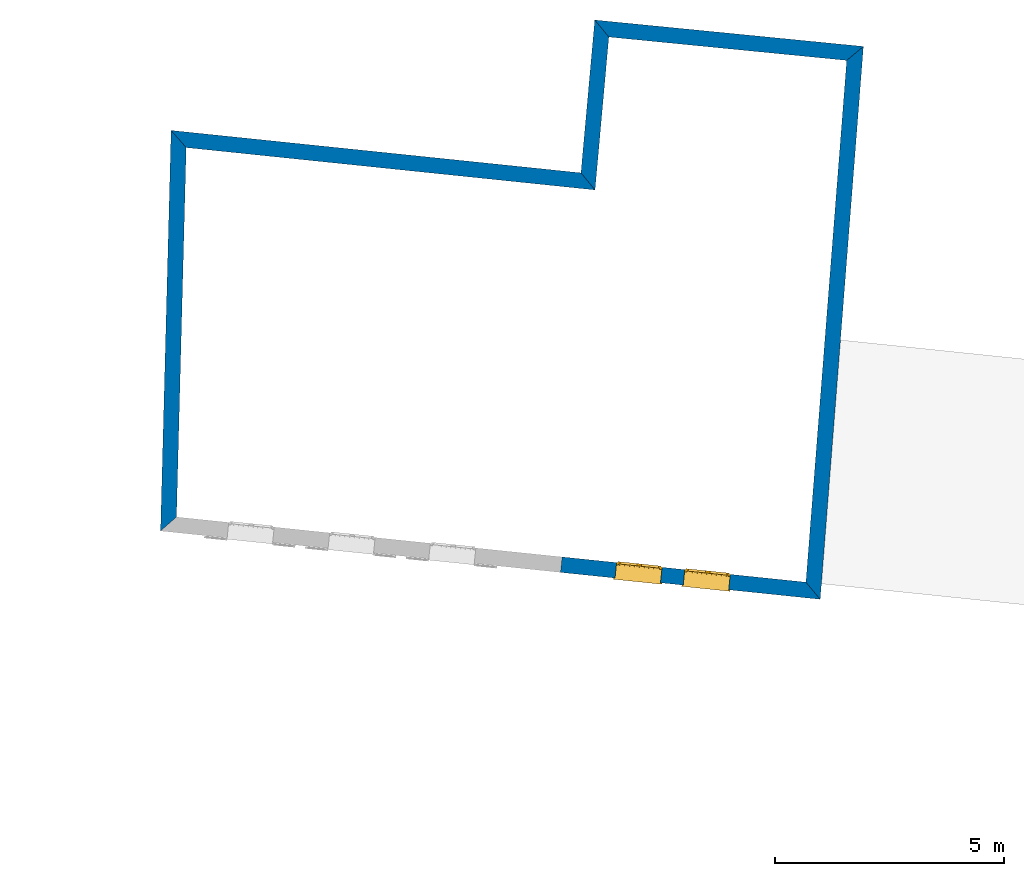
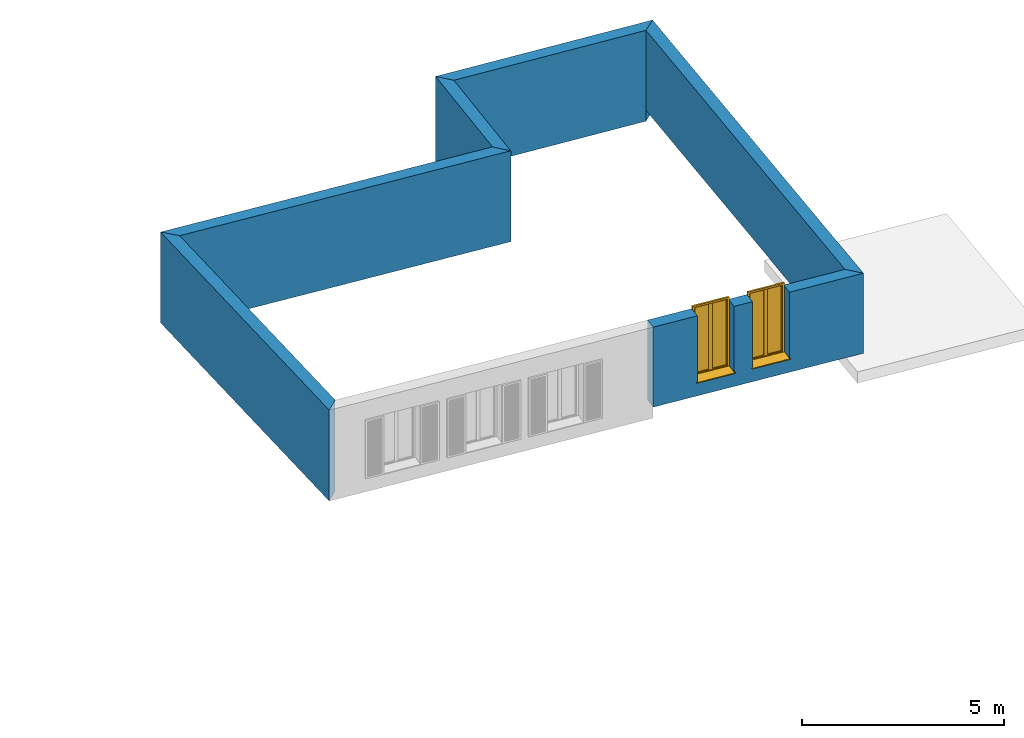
# One storey, part 72 of 164: 6 walls, 2 windows, 2 openings.
"""IFC2X3 building model written with IfcOpenShell, lengths in millimetres."""

from ifc_helpers import new_model, entity, si_unit, converted_unit, derived_unit, money_unit, direction, frame, origin_with_axes, origin_2d_with_axis, place, context, subcontext, project, spatial, polyline, rectangle, outline, extrude, open_shell, faceted_brep, surface_model, source, transform, mapped, material, layer, layer_set, layer_usage, type_object, element, fill, save


model = new_model("IFC2X3")

# Units and contexts
model_context = context("Model", 3, precision=0.01, world=origin_with_axes(), true_north=direction((0.0, 1.0)))
body_context = subcontext(model_context, "Body", "Model", "MODEL_VIEW")
ifc_project = project(units=[si_unit("LENGTHUNIT", "METRE", prefix="MILLI"), si_unit("AREAUNIT", "SQUARE_METRE"), si_unit("VOLUMEUNIT", "CUBIC_METRE"), converted_unit("PLANEANGLEUNIT", "DEGREE", entity("IfcPlaneAngleMeasure", 0.0174532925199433), si_unit("PLANEANGLEUNIT", "RADIAN"), dimensions=[0, 0, 0, 0, 0, 0, 0]), money_unit("USD"), converted_unit("TIMEUNIT", "Year", entity("IfcTimeMeasure", 31557600.0), si_unit("TIMEUNIT", "SECOND"), dimensions=[0, 0, 1, 0, 0, 0, 0]), si_unit("MASSUNIT", "GRAM", prefix="KILO"), si_unit("THERMODYNAMICTEMPERATUREUNIT", "DEGREE_CELSIUS"), si_unit("LUMINOUSINTENSITYUNIT", "LUMEN"), si_unit("ENERGYUNIT", "JOULE", prefix="MEGA"), derived_unit("THERMALCONDUCTANCEUNIT", [(si_unit("POWERUNIT", "WATT"), 1), (si_unit("LENGTHUNIT", "METRE"), -1), (si_unit("THERMODYNAMICTEMPERATUREUNIT", "KELVIN"), -1)]), derived_unit("SPECIFICHEATCAPACITYUNIT", [(si_unit("ENERGYUNIT", "JOULE"), 1), (si_unit("MASSUNIT", "GRAM", prefix="KILO"), -1), (si_unit("THERMODYNAMICTEMPERATUREUNIT", "KELVIN"), -1)]), derived_unit("MASSDENSITYUNIT", [(si_unit("MASSUNIT", "GRAM", prefix="KILO"), 1), (si_unit("VOLUMEUNIT", "CUBIC_METRE"), -1)])], contexts=[model_context])

# Site, building, storey
site_placement = place(None, origin_with_axes())
site = spatial("IfcSite", under=ifc_project, at=site_placement, Name="Site", CompositionType="ELEMENT")
building_placement = place(site_placement, origin_with_axes())
building = spatial("IfcBuilding", under=site, at=building_placement, Name="Bâtiment", CompositionType="ELEMENT")
storey_placement = place(building_placement, frame((0.0, 0.0, 5750.0), z_axis=(0.0, 0.0, 1.0), x_axis=(1.0, 0.0, 0.0)))
storey = spatial("IfcBuildingStorey", under=building, at=storey_placement, Name="Etage1", CompositionType="ELEMENT", Elevation=5750.0)

# Walls
ifc_material = material(Name="Empty Fill 272047960")
ifc_layer = layer(ifc_material, 339.9999999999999, ventilated="UNKNOWN")
ifc_layer_set = layer_set([ifc_layer], Name="Empty Fill 272047960 340")
ifc_layer_usage_1 = layer_usage(ifc_layer_set, "AXIS2", "NEGATIVE", 0.0)
wall_type = type_object("IfcWallType", Name="Empty Fill 272047960 340", PredefinedType="NOTDEFINED")
wall_1_placement = place(storey_placement, frame((2246632.083736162, -579669.7231608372, 250.0), z_axis=(0.0, 0.0, 1.0), x_axis=(0.9951929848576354, -0.09793325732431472, 0.0)))
element("IfcWallStandardCase", 1, at=wall_1_placement, inside=storey, type_object=wall_type, material=ifc_layer_usage_1, Name="Mur-147", context=body_context, shape_type="SweptSolid", body=[
    extrude(outline(polyline([(342.7611404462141, -339.9999999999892), (5572.043413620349, -340.0000000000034), (5905.294234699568, 0.0), (-1.13686837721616e-10, 0.0), (342.7611404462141, -339.9999999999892)])), origin_with_axes(), (0.0, 0.0, 1.0), 2750.0),
])
ifc_layer_usage_2 = layer_usage(ifc_layer_set, "AXIS2", "NEGATIVE", 0.0)
wall_2_placement = place(storey_placement, frame((2237364.476926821, -582084.9367161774, 250.0), z_axis=(0.0, 0.0, 1.0), x_axis=(0.994678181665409, -0.1030306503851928, 0.0)))
element("IfcWallStandardCase", 2, at=wall_2_placement, inside=storey, type_object=wall_type, material=ifc_layer_usage_2, Name="Mur-145", context=body_context, shape_type="SweptSolid", body=[
    extrude(outline(polyline([(367.2099871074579, -340.0000000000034), (9358.323235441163, -339.9999999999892), (9013.80140884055, 0.0), (1.13686837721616e-10, 0.0), (367.2099871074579, -340.0000000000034)])), origin_with_axes(), (0.0, 0.0, 1.0), 2750.0),
])
ifc_layer_usage_3 = layer_usage(ifc_layer_set, "AXIS2", "NEGATIVE", 0.0)
wall_3_placement = place(storey_placement, frame((2237133.958942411, -590847.3537416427, 250.0), z_axis=(0.0, 0.0, 1.0), x_axis=(0.02629848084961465, 0.999654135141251, 0.0)))
element("IfcWallStandardCase", 3, at=wall_3_placement, inside=storey, type_object=wall_type, material=ifc_layer_usage_3, Name="Mur-144", context=body_context, shape_type="SweptSolid", body=[
    extrude(outline(polyline([(314.8062527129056, -340.0000000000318), (8398.238699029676, -340.0000000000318), (8765.448686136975, 1.13686837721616e-10), (0.0, 0.0), (314.8062527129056, -340.0000000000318)])), origin_with_axes(), (0.0, 0.0, 1.0), 2750.0),
])

# Wall, openings, windows
ifc_layer_usage_4 = layer_usage(ifc_layer_set, "AXIS2", "NEGATIVE", 0.0)
wall_4_placement = place(storey_placement, frame((2251563.241222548, -592341.9661351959, 577.6246123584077), z_axis=(0.0, 0.0, 1.0), x_axis=(-0.994678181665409, 0.103030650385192, 0.0)))
wall_4 = element("IfcWallStandardCase", 4, at=wall_4_placement, inside=storey, type_object=wall_type, material=ifc_layer_usage_4, Name="Mur-143", context=body_context, shape_type="SweptSolid", body=[
    extrude(outline(polyline([(348.6680963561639, -339.9999999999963), (5710.689780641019, -339.9999999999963), (5710.689780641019, 0.0), (0.0, 0.0), (348.6680963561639, -339.9999999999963)])), origin_with_axes(), (0.0, 0.0, 1.0), 2422.375387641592),
])
opening_1_placement = place(wall_4_placement, frame((2512.311113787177, 0.0, 398.1636091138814), z_axis=(0.0, 0.0, 1.0), x_axis=(1.0, 0.0, 0.0)))
opening_1 = element("IfcOpeningElement", 5, at=opening_1_placement, cuts=wall_4, Name="Fen-209", context=body_context, shape_type="SweptSolid", body=[
    extrude(rectangle(XDim=1000.000000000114, YDim=2123.206590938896, at=origin_2d_with_axis()), frame((0.0, -289.9999999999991, 1061.603295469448), z_axis=(0.0, -1.0, 0.0), x_axis=(-1.0, 0.0, 0.0)), (0.0, 0.0, -1.0), 629.9999999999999),
    extrude(rectangle(XDim=1000.000000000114, YDim=2123.206590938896, at=origin_2d_with_axis()), frame((0.0, -289.999999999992, 1061.603295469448), z_axis=(0.0, 1.0, 0.0), x_axis=(-1.0, 0.0, 0.0)), (0.0, 0.0, -1.0), 389.9999999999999),
])
opening_2_placement = place(wall_4_placement, frame((4012.311113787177, 0.0, 398.1636091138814), z_axis=(0.0, 0.0, 1.0), x_axis=(1.0, 0.0, 0.0)))
opening_2 = element("IfcOpeningElement", 6, at=opening_2_placement, cuts=wall_4, Name="Fen-208", context=body_context, shape_type="SweptSolid", body=[
    extrude(rectangle(XDim=1000.000000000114, YDim=2123.206590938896, at=origin_2d_with_axis()), frame((1.13686837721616e-10, -289.999999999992, 1061.603295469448), z_axis=(0.0, -1.0, 0.0), x_axis=(-1.0, 0.0, 0.0)), (0.0, 0.0, -1.0), 629.9999999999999),
    extrude(rectangle(XDim=1000.000000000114, YDim=2123.206590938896, at=origin_2d_with_axis()), frame((0.0, -289.999999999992, 1061.603295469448), z_axis=(0.0, 1.0, 0.0), x_axis=(-1.0, 0.0, 0.0)), (0.0, 0.0, -1.0), 389.9999999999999),
])
window_style = type_object("IfcWindowStyle", Name="Fenêtre châssis double variable 27", ConstructionType="NOTDEFINED", OperationType="DOUBLE_PANEL_VERTICAL", ParameterTakesPrecedence=False, Sizeable=False)
shared_shape = source(origin_with_axes(), body_context, "Body", "SurfaceModel", [
    surface_model("IfcShellBasedSurfaceModel", [(500.0, -51.00000000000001, 40.00000000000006), (500.0, -51.00000000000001, 50.00000000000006), (-500.0, -51.00000000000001, 50.0), (-500.0, -51.00000000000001, 40.0), (530.0, -369.9999999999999, 28.96551724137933), (530.0, -339.9999999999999, 30.00324289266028), (500.0, -339.9999999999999, 30.00324289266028), (-500.0, -339.9999999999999, 30.00324289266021), (-530.0, -339.9999999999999, 30.00324289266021), (-530.0, -369.9999999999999, 28.96551724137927), (530.0, -369.9999999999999, 8.96551724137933), (-530.0, -369.9999999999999, 8.965517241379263), (530.0, -359.9999999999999, 18.96551724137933), (-530.0, -359.9999999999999, 18.96551724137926)], [open_shell([[[0, 1, 2, 3]], [[4, 5, 6, 0, 3, 7, 8, 9]], [[10, 4, 9, 11]], [[12, 10, 11, 13]]])]),
    faceted_brep([(-475.0000000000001, 0.0, 2073.206590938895), (-500.0, 0.0, 2073.206590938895), (-500.0, -50.00000000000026, 2073.206590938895), (-450.0, -50.00000000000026, 2073.206590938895), (-450.0, -25.00000000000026, 2073.206590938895), (-475.0000000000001, -25.00000000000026, 2073.206590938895), (-475.0000000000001, 0.0, 50.00000000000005), (-500.0, 0.0, 50.00000000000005), (-500.0, -50.00000000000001, 50.00000000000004), (-450.0, -50.00000000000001, 50.00000000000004), (-450.0, -25.00000000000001, 50.00000000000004), (-475.0000000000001, -25.00000000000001, 50.00000000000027)], [[[0, 1, 2, 3, 4, 5]], [[6, 7, 1, 0]], [[1, 7, 8, 2]], [[2, 8, 9, 3]], [[4, 3, 9, 10]], [[10, 11, 5, 4]], [[5, 11, 6, 0]], [[11, 10, 9, 8, 7, 6]]]),
    faceted_brep([(450.0, -25.00000000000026, 2073.206590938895), (450.0, -50.00000000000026, 2073.206590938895), (500.0, -50.00000000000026, 2073.206590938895), (500.0, 0.0, 2073.206590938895), (475.0000000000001, 0.0, 2073.206590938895), (475.0000000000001, -25.00000000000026, 2073.206590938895), (450.0, -25.00000000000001, 50.00000000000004), (450.0, -50.00000000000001, 50.00000000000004), (500.0, -50.00000000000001, 50.00000000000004), (500.0, 0.0, 50.00000000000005), (475.0000000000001, 0.0, 50.00000000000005), (475.0000000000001, -25.00000000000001, 50.00000000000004)], [[[0, 1, 2, 3, 4, 5]], [[6, 7, 1, 0]], [[8, 2, 1, 7]], [[9, 3, 2, 8]], [[4, 3, 9, 10]], [[10, 11, 5, 4]], [[5, 11, 6, 0]], [[11, 10, 9, 8, 7, 6]]]),
    faceted_brep([(450.0, -25.00000000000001, 50.00000000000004), (450.0, -50.00000000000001, 50.00000000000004), (500.0, -50.00000000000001, 50.00000000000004), (500.0, 0.0, 50.00000000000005), (475.0000000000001, 0.0, 50.00000000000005), (475.0000000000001, -25.00000000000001, 50.00000000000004), (-450.0, -25.00000000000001, 50.00000000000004), (-450.0, -50.00000000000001, 50.00000000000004), (-500.0, -50.00000000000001, 50.00000000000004), (-500.0, -50.0, 0.0), (500.0, -50.0, 0.0), (500.0, 0.0, 0.0), (-475.0000000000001, 0.0, 24.99999999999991), (475.0000000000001, 0.0, 24.99999999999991), (-500.0, 0.0, 0.0), (-500.0, 0.0, 50.00000000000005), (-475.0000000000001, 0.0, 50.00000000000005), (475.0000000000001, -25.0, 24.99999999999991), (-475.0000000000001, -25.0, 24.99999999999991), (-475.0000000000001, -25.00000000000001, 50.00000000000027)], [[[0, 1, 2, 3, 4, 5]], [[6, 7, 1, 0]], [[8, 9, 10, 2, 1, 7]], [[11, 3, 2, 10]], [[12, 13, 4, 3, 11, 14, 15, 16]], [[13, 17, 5, 4]], [[5, 17, 18, 19, 6, 0]], [[19, 16, 15, 8, 7, 6]], [[15, 14, 9, 8]], [[14, 11, 10, 9]], [[12, 18, 17, 13]], [[19, 18, 12, 16]]]),
    faceted_brep([(-475.0000000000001, 0.0, 2073.206590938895), (-500.0, 0.0, 2073.206590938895), (-500.0, 0.0, 2123.206590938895), (500.0, 0.0, 2123.206590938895), (500.0, 0.0, 2073.206590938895), (475.0000000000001, 0.0, 2073.206590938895), (475.0000000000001, 0.0, 2098.206590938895), (-475.0000000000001, 0.0, 2098.206590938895), (-475.0000000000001, -25.00000000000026, 2073.206590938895), (-450.0, -25.00000000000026, 2073.206590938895), (-450.0, -50.00000000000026, 2073.206590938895), (-500.0, -50.00000000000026, 2073.206590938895), (-500.0, -50.00000000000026, 2123.206590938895), (500.0, -50.00000000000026, 2123.206590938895), (500.0, -50.00000000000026, 2073.206590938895), (475.0000000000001, -25.00000000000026, 2073.206590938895), (450.0, -50.00000000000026, 2073.206590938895), (450.0, -25.00000000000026, 2073.206590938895), (475.0000000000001, -25.00000000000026, 2098.206590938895), (-475.0000000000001, -25.00000000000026, 2098.206590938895)], [[[0, 1, 2, 3, 4, 5, 6, 7]], [[8, 9, 10, 11, 1, 0]], [[2, 1, 11, 12]], [[3, 2, 12, 13]], [[4, 3, 13, 14]], [[15, 5, 4, 14, 16, 17]], [[5, 15, 18, 6]], [[6, 18, 19, 7]], [[7, 19, 8, 0]], [[17, 9, 8, 19, 18, 15]], [[17, 16, 10, 9]], [[14, 13, 12, 11, 10, 16]]]),
    faceted_brep([(-425.0000000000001, -25.00000000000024, 2048.206590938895), (-425.0000000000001, 24.99999999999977, 2048.206590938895), (-475.0000000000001, 24.99999999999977, 2048.206590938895), (-475.0000000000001, -25.00000000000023, 2048.206590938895), (-425.0000000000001, -24.99999999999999, 75.00000000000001), (-425.0000000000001, 25.00000000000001, 75.00000000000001), (-475.0000000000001, 25.00000000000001, 75.00000000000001), (-475.0000000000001, -24.99999999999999, 75.00000000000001)], [[[0, 1, 2, 3]], [[4, 5, 1, 0]], [[1, 5, 6, 2]], [[3, 2, 6, 7]], [[0, 3, 7, 4]], [[7, 6, 5, 4]]]),
    faceted_brep([(-50.00000000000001, -25.00000000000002, 75.00000000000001), (-50.00000000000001, 24.99999999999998, 75.00000000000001), (0.0, 24.99999999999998, 75.00000000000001), (0.0, -25.00000000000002, 75.00000000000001), (-50.00000000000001, -25.00000000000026, 2048.206590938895), (-50.00000000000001, 24.99999999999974, 2048.206590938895), (0.0, 24.99999999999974, 2048.206590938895), (0.0, -25.00000000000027, 2048.206590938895)], [[[0, 1, 2, 3]], [[4, 5, 1, 0]], [[1, 5, 6, 2]], [[3, 2, 6, 7]], [[0, 3, 7, 4]], [[7, 6, 5, 4]]]),
    faceted_brep([(0.0, -25.00000000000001, 25.0), (0.0, 24.99999999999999, 25.00000000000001), (0.0, 24.99999999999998, 75.00000000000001), (0.0, -25.00000000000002, 75.00000000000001), (-475.0000000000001, -24.99999999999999, 25.0), (-475.0000000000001, 25.00000000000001, 25.00000000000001), (-475.0000000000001, 25.00000000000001, 75.00000000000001), (-425.0000000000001, 25.00000000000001, 75.00000000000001), (-50.00000000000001, 24.99999999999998, 75.00000000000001), (-50.00000000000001, -25.00000000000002, 75.00000000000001), (-425.0000000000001, -24.99999999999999, 75.00000000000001), (-475.0000000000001, -24.99999999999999, 75.00000000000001)], [[[0, 1, 2, 3]], [[4, 5, 1, 0]], [[1, 5, 6, 7, 8, 2]], [[3, 2, 8, 9]], [[0, 3, 9, 10, 11, 4]], [[11, 6, 5, 4]], [[10, 7, 6, 11]], [[9, 8, 7, 10]]]),
    faceted_brep([(-475.0000000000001, -25.00000000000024, 2098.206590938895), (-475.0000000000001, 24.99999999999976, 2098.206590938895), (-475.0000000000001, 24.99999999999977, 2048.206590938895), (-475.0000000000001, -25.00000000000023, 2048.206590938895), (0.0, -25.00000000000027, 2098.206590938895), (0.0, 24.99999999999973, 2098.206590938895), (0.0, 24.99999999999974, 2048.206590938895), (-50.00000000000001, 24.99999999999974, 2048.206590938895), (-425.0000000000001, 24.99999999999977, 2048.206590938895), (-425.0000000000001, -25.00000000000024, 2048.206590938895), (-50.00000000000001, -25.00000000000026, 2048.206590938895), (0.0, -25.00000000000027, 2048.206590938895)], [[[0, 1, 2, 3]], [[4, 5, 1, 0]], [[1, 5, 6, 7, 8, 2]], [[3, 2, 8, 9]], [[0, 3, 9, 10, 11, 4]], [[11, 6, 5, 4]], [[10, 7, 6, 11]], [[9, 8, 7, 10]]]),
    surface_model("IfcShellBasedSurfaceModel", [(-425.0000000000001, -10.00000000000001, 75.00000000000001), (-50.00000000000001, -10.00000000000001, 75.00000000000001), (-50.00000000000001, -10.00000000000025, 2048.206590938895), (-425.0000000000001, -10.00000000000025, 2048.206590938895)], [open_shell([[[0, 1, 2, 3]]])]),
    surface_model("IfcShellBasedSurfaceModel", [(-425.0000000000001, 9.999999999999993, 75.00000000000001), (-425.0000000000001, 9.999999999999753, 2048.206590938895), (-50.00000000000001, 9.999999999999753, 2048.206590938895), (-50.00000000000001, 9.999999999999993, 75.00000000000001)], [open_shell([[[0, 1, 2, 3]]])]),
    faceted_brep([(50.00000000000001, -25.00000000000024, 2048.206590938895), (50.00000000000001, 24.99999999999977, 2048.206590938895), (0.0, 24.99999999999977, 2048.206590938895), (0.0, -25.00000000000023, 2048.206590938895), (50.00000000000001, -24.99999999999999, 75.00000000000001), (50.00000000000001, 25.00000000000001, 75.00000000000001), (0.0, 25.00000000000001, 75.00000000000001), (0.0, -24.99999999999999, 75.00000000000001)], [[[0, 1, 2, 3]], [[4, 5, 1, 0]], [[1, 5, 6, 2]], [[3, 2, 6, 7]], [[0, 3, 7, 4]], [[7, 6, 5, 4]]]),
    faceted_brep([(425.0000000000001, -25.00000000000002, 75.00000000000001), (425.0000000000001, 24.99999999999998, 75.00000000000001), (475.0000000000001, 24.99999999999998, 75.00000000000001), (475.0000000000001, -25.00000000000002, 75.00000000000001), (425.0000000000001, -25.00000000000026, 2048.206590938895), (425.0000000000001, 24.99999999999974, 2048.206590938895), (475.0000000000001, 24.99999999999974, 2048.206590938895), (475.0000000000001, -25.00000000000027, 2048.206590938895)], [[[0, 1, 2, 3]], [[4, 5, 1, 0]], [[1, 5, 6, 2]], [[3, 2, 6, 7]], [[0, 3, 7, 4]], [[7, 6, 5, 4]]]),
    faceted_brep([(475.0000000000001, -25.00000000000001, 25.0), (475.0000000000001, 24.99999999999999, 25.00000000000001), (475.0000000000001, 24.99999999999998, 75.00000000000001), (475.0000000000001, -25.00000000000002, 75.00000000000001), (0.0, -24.99999999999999, 25.0), (0.0, 25.00000000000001, 25.00000000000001), (0.0, 25.00000000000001, 75.00000000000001), (50.00000000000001, 25.00000000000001, 75.00000000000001), (425.0000000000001, 24.99999999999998, 75.00000000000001), (425.0000000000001, -25.00000000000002, 75.00000000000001), (50.00000000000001, -24.99999999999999, 75.00000000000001), (0.0, -24.99999999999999, 75.00000000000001)], [[[0, 1, 2, 3]], [[4, 5, 1, 0]], [[1, 5, 6, 7, 8, 2]], [[3, 2, 8, 9]], [[0, 3, 9, 10, 11, 4]], [[11, 6, 5, 4]], [[10, 7, 6, 11]], [[9, 8, 7, 10]]]),
    faceted_brep([(0.0, -25.00000000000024, 2098.206590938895), (0.0, 24.99999999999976, 2098.206590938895), (0.0, 24.99999999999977, 2048.206590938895), (0.0, -25.00000000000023, 2048.206590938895), (475.0000000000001, -25.00000000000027, 2098.206590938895), (475.0000000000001, 24.99999999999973, 2098.206590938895), (475.0000000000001, 24.99999999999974, 2048.206590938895), (425.0000000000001, 24.99999999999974, 2048.206590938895), (50.00000000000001, 24.99999999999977, 2048.206590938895), (50.00000000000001, -25.00000000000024, 2048.206590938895), (425.0000000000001, -25.00000000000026, 2048.206590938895), (475.0000000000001, -25.00000000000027, 2048.206590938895)], [[[0, 1, 2, 3]], [[4, 5, 1, 0]], [[1, 5, 6, 7, 8, 2]], [[3, 2, 8, 9]], [[0, 3, 9, 10, 11, 4]], [[11, 6, 5, 4]], [[10, 7, 6, 11]], [[9, 8, 7, 10]]]),
    surface_model("IfcShellBasedSurfaceModel", [(50.00000000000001, -10.00000000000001, 75.00000000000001), (425.0000000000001, -10.00000000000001, 75.00000000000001), (425.0000000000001, -10.00000000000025, 2048.206590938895), (50.00000000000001, -10.00000000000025, 2048.206590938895)], [open_shell([[[0, 1, 2, 3]]])]),
    surface_model("IfcShellBasedSurfaceModel", [(50.00000000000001, 9.999999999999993, 75.00000000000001), (50.00000000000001, 9.999999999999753, 2048.206590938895), (425.0000000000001, 9.999999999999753, 2048.206590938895), (425.0000000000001, 9.999999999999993, 75.00000000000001)], [open_shell([[[0, 1, 2, 3]]])]),
])
window_1_placement = place(opening_2_placement, frame((500.0000000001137, 0.0, 0.0), z_axis=(0.0, 0.0, 1.0), x_axis=(-1.0, 0.0, 0.0)))
window_1 = element("IfcWindow", 7, at=window_1_placement, inside=storey, type_object=window_style, Name="Fen-208", OverallHeight=2123.21, OverallWidth=1000.0, context=body_context, shape_type="MappedRepresentation", body=[
    mapped(shared_shape, transform((500.0, 339.9999999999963, 0.0))),
])
fill(opening_2, window_1)
window_2_placement = place(opening_1_placement, frame((500.0000000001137, 0.0, 0.0), z_axis=(0.0, 0.0, 1.0), x_axis=(-1.0, 0.0, 0.0)))
window_2 = element("IfcWindow", 8, at=window_2_placement, inside=storey, type_object=window_style, Name="Fen-209", OverallHeight=2123.21, OverallWidth=1000.0, context=body_context, shape_type="MappedRepresentation", body=[
    mapped(shared_shape, transform((500.0, 340.0000000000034, 0.0))),
])
fill(opening_1, window_2)

# Walls
ifc_layer_usage_5 = layer_usage(ifc_layer_set, "AXIS2", "NEGATIVE", 0.0)
wall_5_placement = place(storey_placement, frame((2246330.30852206, -583013.6345377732, 250.0), z_axis=(0.0, 0.0, 1.0), x_axis=(0.08988090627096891, 0.9959525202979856, 0.0)))
element("IfcWallStandardCase", 9, at=wall_5_placement, inside=storey, type_object=wall_type, material=ifc_layer_usage_5, Name="Mur-146", context=body_context, shape_type="SweptSolid", body=[
    extrude(outline(polyline([(-344.5218266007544, -340.0000000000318), (3014.739652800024, -340.0000000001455), (3357.500793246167, 0.0), (0.0, 0.0), (-344.5218266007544, -340.0000000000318)])), origin_with_axes(), (0.0, 0.0, 1.0), 2750.0),
])
ifc_layer_usage_6 = layer_usage(ifc_layer_set, "AXIS2", "NEGATIVE", 0.0)
wall_6_placement = place(storey_placement, frame((2252508.991132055, -580248.0478606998, 577.6246123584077), z_axis=(0.0, 0.0, 1.0), x_axis=(-0.07796243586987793, -0.9969562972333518, 0.0)))
element("IfcWallStandardCase", 10, at=wall_6_placement, inside=storey, type_object=wall_type, material=ifc_layer_usage_6, Name="Mur-142", context=body_context, shape_type="SweptSolid", body=[
    extrude(outline(polyline([(333.2508210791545, -339.9999999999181), (11782.17285229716, -339.9999999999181), (12130.8409486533, 0.0), (0.0, 0.0), (333.2508210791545, -339.9999999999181)])), origin_with_axes(), (0.0, 0.0, 1.0), 2422.375387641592),
])

save(model, "model.ifc")
